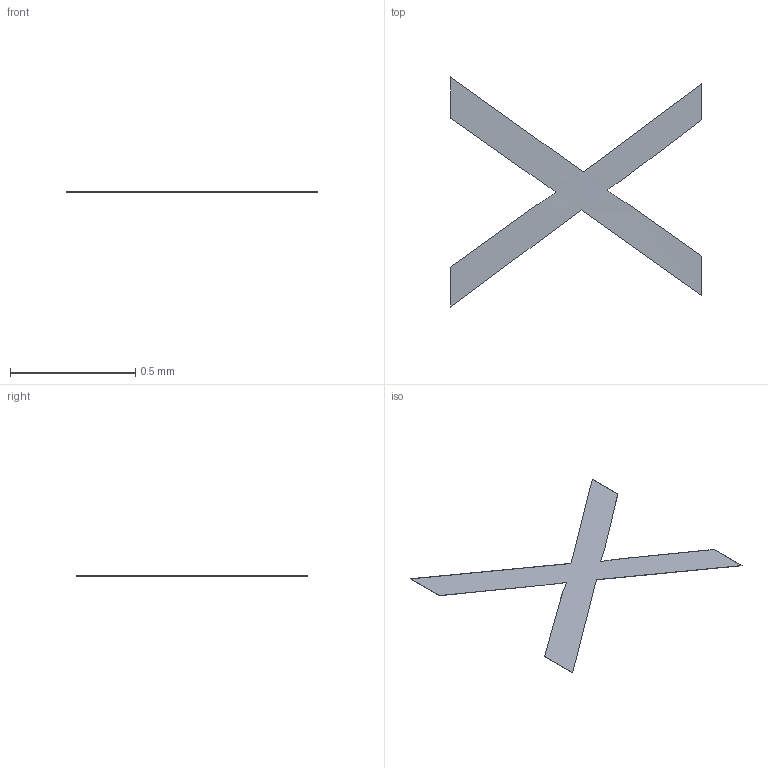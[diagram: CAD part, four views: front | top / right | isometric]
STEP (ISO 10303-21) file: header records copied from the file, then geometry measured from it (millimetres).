
FILE_DESCRIPTION(/* description */ ('STEP AP242 Edition 2','CAx-IF Rec.Pracs.---Representation and Presentation of Product Manufacturing Information (PMI)---4.0---2014-10-13','CAx-IF Rec.Pracs.---3D Tessellated Geometry---0.4---2014-09-14','2;1','CAx-IF Rec.Pracs.---User Defined Attributes---1.5---2016-08-15'),/* implementation_level */ '2;1');
FILE_NAME(/* name */ 'Drone Layout - Surface 341',/* time_stamp */ '2026-10-04T22:22:56Z',/* author */ (''),/* organization */ (''),/* preprocessor_version */ 'ST-DEVELOPER v20',/* originating_system */ 'ONSHAPE BY PTC INC, 1.221',/* authorisation */ ' ');
FILE_SCHEMA (('AP242_MANAGED_MODEL_BASED_3D_ENGINEERING_MIM_LF { 1 0 10303 442 3 1 4 }'));
Length unit declared in the file: metre
Products named in the file (1): VL53L0X:1__Body37
Bounding box: 1 x 0.92 x 0 mm (x, y, z)
Volume: 0 mm3; surface area: 0.6 mm2
Topology: 1 solids, 1 shells, 18 faces, 44 edges, 28 vertices
Faces by surface type: plane 14, cylinder 3, bspline 1
Entity records: 550 total; most frequent: CARTESIAN_POINT 113, ORIENTED_EDGE 88, DIRECTION 84, EDGE_CURVE 44, LINE 36, VECTOR 36, VERTEX_POINT 28, AXIS2_PLACEMENT_3D 24
